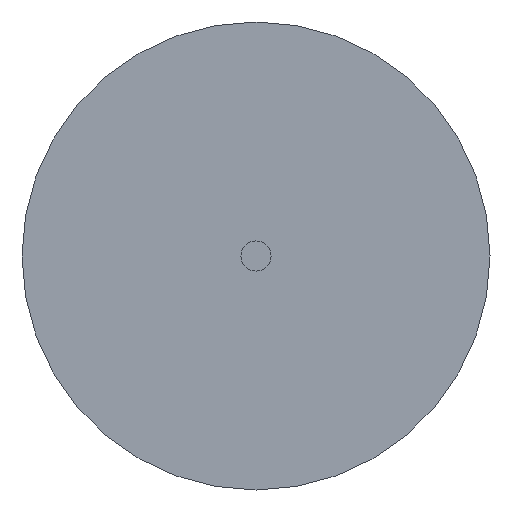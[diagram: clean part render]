
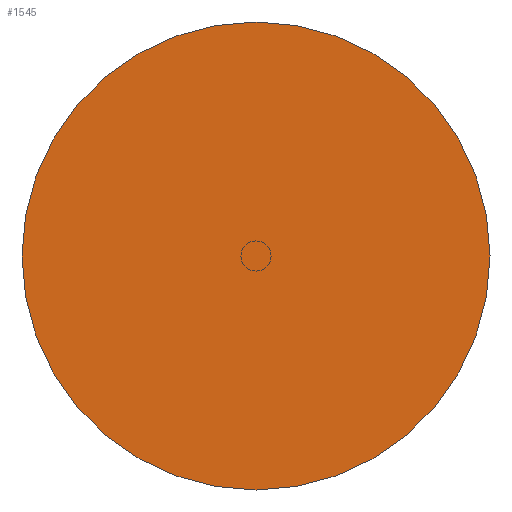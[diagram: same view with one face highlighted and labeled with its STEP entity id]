
A CAD part, front view. The second image highlights one B-rep face of the part: STEP entity #1545.
In plain terms, the highlighted planar face has unit normal (0, -1, 0).
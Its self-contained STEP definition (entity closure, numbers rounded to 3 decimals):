
#111=PLANE('',#1682);
#154=FACE_OUTER_BOUND('',#265,.T.);
#265=EDGE_LOOP('',(#1033));
#577=CIRCLE('',#1680,140.);
#654=VERTEX_POINT('',#2330);
#798=EDGE_CURVE('',#654,#654,#577,.T.);
#1033=ORIENTED_EDGE('',*,*,#798,.F.);
#1545=ADVANCED_FACE('',(#154),#111,.F.);
#1680=AXIS2_PLACEMENT_3D('',#2332,#1867,#1868);
#1682=AXIS2_PLACEMENT_3D('',#2334,#1871,#1872);
#1867=DIRECTION('center_axis',(0.,1.,0.));
#1868=DIRECTION('ref_axis',(1.,0.,0.));
#1871=DIRECTION('center_axis',(0.,1.,0.));
#1872=DIRECTION('ref_axis',(1.,0.,0.));
#2330=CARTESIAN_POINT('',(-140.,-240.,0.));
#2332=CARTESIAN_POINT('Origin',(0.,-240.,0.));
#2334=CARTESIAN_POINT('Origin',(0.,-240.,0.));
